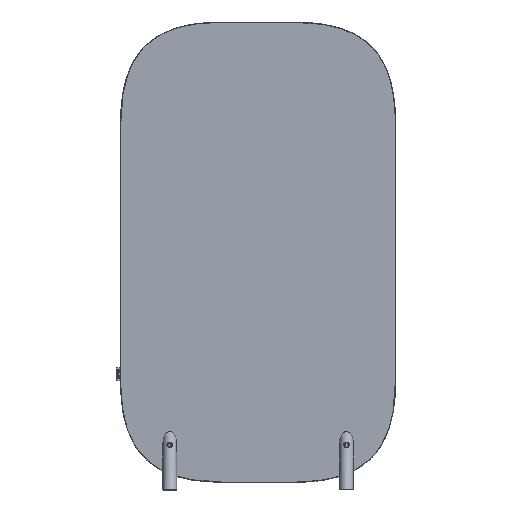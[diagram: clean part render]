
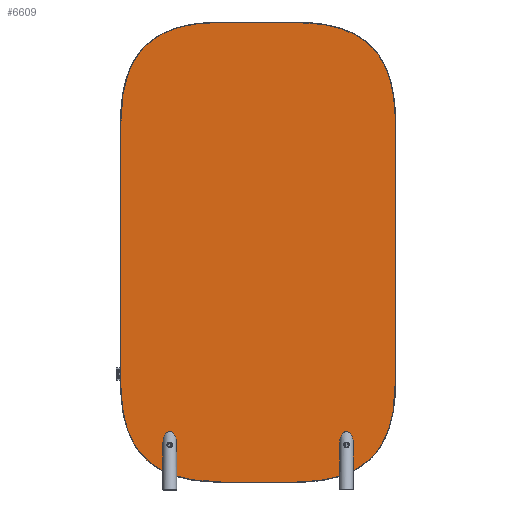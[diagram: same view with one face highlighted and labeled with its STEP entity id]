
A CAD part, left-side view. The second image highlights one B-rep face of the part: STEP entity #6609.
In plain terms, the highlighted planar face has unit normal (-1, 0, 0).
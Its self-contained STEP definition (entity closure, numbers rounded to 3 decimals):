
#477=FACE_BOUND('',#1176,.T.);
#478=FACE_BOUND('',#1177,.T.);
#479=FACE_BOUND('',#1178,.T.);
#480=FACE_BOUND('',#1179,.T.);
#481=FACE_BOUND('',#1180,.T.);
#482=FACE_BOUND('',#1181,.T.);
#521=CIRCLE('',#7072,4.);
#522=CIRCLE('',#7073,4.);
#523=CIRCLE('',#7074,4.);
#524=CIRCLE('',#7075,4.);
#525=CIRCLE('',#7076,4.);
#526=CIRCLE('',#7077,4.);
#568=B_SPLINE_CURVE_WITH_KNOTS('',3,(#8970,#8971,#8972,#8973,#8974,#8975,
#8976,#8977,#8978,#8979,#8980,#8981,#8982,#8983),.UNSPECIFIED.,.F.,.F.,
(4,2,2,2,2,2,4),(-73.677,-63.519,-50.322,
-37.778,-25.802,-10.935,0.),.UNSPECIFIED.);
#569=B_SPLINE_CURVE_WITH_KNOTS('',3,(#8985,#8986,#8987,#8988,#8989,#8990,
#8991,#8992,#8993,#8994,#8995,#8996,#8997,#8998),.UNSPECIFIED.,.F.,.F.,
(4,2,2,2,2,2,4),(-73.677,-63.519,-50.322,
-37.778,-25.802,-10.935,0.),.UNSPECIFIED.);
#570=B_SPLINE_CURVE_WITH_KNOTS('',3,(#9001,#9002,#9003,#9004,#9005,#9006,
#9007,#9008,#9009,#9010,#9011,#9012,#9013,#9014),.UNSPECIFIED.,.F.,.F.,
(4,2,2,2,2,2,4),(-73.677,-63.519,-50.322,
-37.778,-25.802,-10.935,0.),.UNSPECIFIED.);
#571=B_SPLINE_CURVE_WITH_KNOTS('',3,(#9016,#9017,#9018,#9019,#9020,#9021,
#9022,#9023,#9024,#9025,#9026,#9027,#9028,#9029),.UNSPECIFIED.,.F.,.F.,
(4,2,2,2,2,2,4),(-73.677,-63.519,-50.322,
-37.778,-25.802,-10.935,0.),.UNSPECIFIED.);
#786=FACE_OUTER_BOUND('',#1175,.T.);
#1175=EDGE_LOOP('',(#4447,#4448,#4449,#4450,#4451,#4452,#4453,#4454));
#1176=EDGE_LOOP('',(#4455));
#1177=EDGE_LOOP('',(#4456));
#1178=EDGE_LOOP('',(#4457));
#1179=EDGE_LOOP('',(#4458));
#1180=EDGE_LOOP('',(#4459));
#1181=EDGE_LOOP('',(#4460));
#1605=LINE('',#8937,#2189);
#1615=LINE('',#8958,#2199);
#1620=LINE('',#9000,#2204);
#1621=LINE('',#9030,#2205);
#2189=VECTOR('',#7501,10.);
#2199=VECTOR('',#7515,10.);
#2204=VECTOR('',#7524,10.);
#2205=VECTOR('',#7525,10.);
#2772=VERTEX_POINT('',#8933);
#2774=VERTEX_POINT('',#8936);
#2781=VERTEX_POINT('',#8952);
#2783=VERTEX_POINT('',#8956);
#2788=VERTEX_POINT('',#8969);
#2789=VERTEX_POINT('',#8984);
#2790=VERTEX_POINT('',#8999);
#2791=VERTEX_POINT('',#9015);
#2792=VERTEX_POINT('',#9031);
#2793=VERTEX_POINT('',#9033);
#2794=VERTEX_POINT('',#9035);
#2795=VERTEX_POINT('',#9037);
#2796=VERTEX_POINT('',#9039);
#2797=VERTEX_POINT('',#9041);
#3436=EDGE_CURVE('',#2772,#2774,#1605,.T.);
#3446=EDGE_CURVE('',#2781,#2783,#1615,.T.);
#3451=EDGE_CURVE('',#2781,#2788,#568,.F.);
#3452=EDGE_CURVE('',#2789,#2783,#569,.F.);
#3453=EDGE_CURVE('',#2790,#2789,#1620,.T.);
#3454=EDGE_CURVE('',#2774,#2790,#570,.F.);
#3455=EDGE_CURVE('',#2791,#2772,#571,.F.);
#3456=EDGE_CURVE('',#2788,#2791,#1621,.T.);
#3457=EDGE_CURVE('',#2792,#2792,#521,.T.);
#3458=EDGE_CURVE('',#2793,#2793,#522,.T.);
#3459=EDGE_CURVE('',#2794,#2794,#523,.T.);
#3460=EDGE_CURVE('',#2795,#2795,#524,.T.);
#3461=EDGE_CURVE('',#2796,#2796,#525,.T.);
#3462=EDGE_CURVE('',#2797,#2797,#526,.T.);
#4447=ORIENTED_EDGE('',*,*,#3451,.F.);
#4448=ORIENTED_EDGE('',*,*,#3446,.T.);
#4449=ORIENTED_EDGE('',*,*,#3452,.F.);
#4450=ORIENTED_EDGE('',*,*,#3453,.F.);
#4451=ORIENTED_EDGE('',*,*,#3454,.F.);
#4452=ORIENTED_EDGE('',*,*,#3436,.F.);
#4453=ORIENTED_EDGE('',*,*,#3455,.F.);
#4454=ORIENTED_EDGE('',*,*,#3456,.F.);
#4455=ORIENTED_EDGE('',*,*,#3457,.F.);
#4456=ORIENTED_EDGE('',*,*,#3458,.F.);
#4457=ORIENTED_EDGE('',*,*,#3459,.F.);
#4458=ORIENTED_EDGE('',*,*,#3460,.F.);
#4459=ORIENTED_EDGE('',*,*,#3461,.F.);
#4460=ORIENTED_EDGE('',*,*,#3462,.F.);
#6427=PLANE('',#7071);
#6609=ADVANCED_FACE('',(#786,#477,#478,#479,#480,#481,#482),#6427,.F.);
#7071=AXIS2_PLACEMENT_3D('',#8968,#7522,#7523);
#7072=AXIS2_PLACEMENT_3D('',#9032,#7526,#7527);
#7073=AXIS2_PLACEMENT_3D('',#9034,#7528,#7529);
#7074=AXIS2_PLACEMENT_3D('',#9036,#7530,#7531);
#7075=AXIS2_PLACEMENT_3D('',#9038,#7532,#7533);
#7076=AXIS2_PLACEMENT_3D('',#9040,#7534,#7535);
#7077=AXIS2_PLACEMENT_3D('',#9042,#7536,#7537);
#7501=DIRECTION('',(0.,1.,0.));
#7515=DIRECTION('',(0.,1.,0.));
#7522=DIRECTION('center_axis',(1.,0.,0.));
#7523=DIRECTION('ref_axis',(0.,1.,0.));
#7524=DIRECTION('',(0.,0.,1.));
#7525=DIRECTION('',(0.,0.,-1.));
#7526=DIRECTION('center_axis',(-1.,0.,0.));
#7527=DIRECTION('ref_axis',(0.,1.,0.));
#7528=DIRECTION('center_axis',(-1.,0.,0.));
#7529=DIRECTION('ref_axis',(0.,1.,0.));
#7530=DIRECTION('center_axis',(-1.,0.,0.));
#7531=DIRECTION('ref_axis',(0.,1.,0.));
#7532=DIRECTION('center_axis',(-1.,0.,0.));
#7533=DIRECTION('ref_axis',(0.,1.,0.));
#7534=DIRECTION('center_axis',(-1.,0.,0.));
#7535=DIRECTION('ref_axis',(0.,1.,0.));
#7536=DIRECTION('center_axis',(-1.,0.,0.));
#7537=DIRECTION('ref_axis',(0.,1.,0.));
#8933=CARTESIAN_POINT('',(-14.,-129.,-836.125));
#8936=CARTESIAN_POINT('',(-14.,129.,-836.125));
#8937=CARTESIAN_POINT('',(-14.,-129.,-836.125));
#8952=CARTESIAN_POINT('',(-14.,-129.,836.125));
#8956=CARTESIAN_POINT('',(-14.,129.,836.125));
#8958=CARTESIAN_POINT('',(-14.,-129.,836.125));
#8968=CARTESIAN_POINT('Origin',(-14.,0.,0.));
#8969=CARTESIAN_POINT('',(-14.,-500.,465.125));
#8970=CARTESIAN_POINT('Ctrl Pts',(-14.,-500.,465.125));
#8971=CARTESIAN_POINT('Ctrl Pts',(-14.,-500.,502.797));
#8972=CARTESIAN_POINT('Ctrl Pts',(-14.,-497.649,536.83));
#8973=CARTESIAN_POINT('Ctrl Pts',(-14.,-487.038,607.279));
#8974=CARTESIAN_POINT('Ctrl Pts',(-14.,-477.255,641.402));
#8975=CARTESIAN_POINT('Ctrl Pts',(-14.,-451.183,698.899));
#8976=CARTESIAN_POINT('Ctrl Pts',(-14.,-435.254,722.751));
#8977=CARTESIAN_POINT('Ctrl Pts',(-14.,-397.46,762.579));
#8978=CARTESIAN_POINT('Ctrl Pts',(-14.,-375.893,778.864));
#8979=CARTESIAN_POINT('Ctrl Pts',(-14.,-319.371,808.773));
#8980=CARTESIAN_POINT('Ctrl Pts',(-14.,-282.41,820.804));
#8981=CARTESIAN_POINT('Ctrl Pts',(-14.,-205.879,833.399));
#8982=CARTESIAN_POINT('Ctrl Pts',(-14.,-169.55,836.125));
#8983=CARTESIAN_POINT('Ctrl Pts',(-14.,-129.,836.125));
#8984=CARTESIAN_POINT('',(-14.,500.,465.125));
#8985=CARTESIAN_POINT('Ctrl Pts',(-14.,129.,836.125));
#8986=CARTESIAN_POINT('Ctrl Pts',(-14.,166.672,836.125));
#8987=CARTESIAN_POINT('Ctrl Pts',(-14.,200.705,833.774));
#8988=CARTESIAN_POINT('Ctrl Pts',(-14.,271.154,823.163));
#8989=CARTESIAN_POINT('Ctrl Pts',(-14.,305.277,813.38));
#8990=CARTESIAN_POINT('Ctrl Pts',(-14.,362.774,787.308));
#8991=CARTESIAN_POINT('Ctrl Pts',(-14.,386.626,771.379));
#8992=CARTESIAN_POINT('Ctrl Pts',(-14.,426.454,733.585));
#8993=CARTESIAN_POINT('Ctrl Pts',(-14.,442.739,712.018));
#8994=CARTESIAN_POINT('Ctrl Pts',(-14.,472.648,655.496));
#8995=CARTESIAN_POINT('Ctrl Pts',(-14.,484.679,618.535));
#8996=CARTESIAN_POINT('Ctrl Pts',(-14.,497.274,542.004));
#8997=CARTESIAN_POINT('Ctrl Pts',(-14.,500.,505.675));
#8998=CARTESIAN_POINT('Ctrl Pts',(-14.,500.,465.125));
#8999=CARTESIAN_POINT('',(-14.,500.,-465.125));
#9000=CARTESIAN_POINT('',(-14.,500.,-232.563));
#9001=CARTESIAN_POINT('Ctrl Pts',(-14.,500.,-465.125));
#9002=CARTESIAN_POINT('Ctrl Pts',(-14.,500.,-502.797));
#9003=CARTESIAN_POINT('Ctrl Pts',(-14.,497.649,-536.83));
#9004=CARTESIAN_POINT('Ctrl Pts',(-14.,487.038,-607.279));
#9005=CARTESIAN_POINT('Ctrl Pts',(-14.,477.255,-641.402));
#9006=CARTESIAN_POINT('Ctrl Pts',(-14.,451.183,-698.899));
#9007=CARTESIAN_POINT('Ctrl Pts',(-14.,435.254,-722.751));
#9008=CARTESIAN_POINT('Ctrl Pts',(-14.,397.46,-762.579));
#9009=CARTESIAN_POINT('Ctrl Pts',(-14.,375.893,-778.864));
#9010=CARTESIAN_POINT('Ctrl Pts',(-14.,319.371,-808.773));
#9011=CARTESIAN_POINT('Ctrl Pts',(-14.,282.41,-820.804));
#9012=CARTESIAN_POINT('Ctrl Pts',(-14.,205.879,-833.399));
#9013=CARTESIAN_POINT('Ctrl Pts',(-14.,169.55,-836.125));
#9014=CARTESIAN_POINT('Ctrl Pts',(-14.,129.,-836.125));
#9015=CARTESIAN_POINT('',(-14.,-500.,-465.125));
#9016=CARTESIAN_POINT('Ctrl Pts',(-14.,-129.,-836.125));
#9017=CARTESIAN_POINT('Ctrl Pts',(-14.,-166.672,-836.125));
#9018=CARTESIAN_POINT('Ctrl Pts',(-14.,-200.705,-833.774));
#9019=CARTESIAN_POINT('Ctrl Pts',(-14.,-271.154,-823.163));
#9020=CARTESIAN_POINT('Ctrl Pts',(-14.,-305.277,-813.38));
#9021=CARTESIAN_POINT('Ctrl Pts',(-14.,-362.774,-787.308));
#9022=CARTESIAN_POINT('Ctrl Pts',(-14.,-386.626,-771.379));
#9023=CARTESIAN_POINT('Ctrl Pts',(-14.,-426.454,-733.585));
#9024=CARTESIAN_POINT('Ctrl Pts',(-14.,-442.739,-712.018));
#9025=CARTESIAN_POINT('Ctrl Pts',(-14.,-472.648,-655.496));
#9026=CARTESIAN_POINT('Ctrl Pts',(-14.,-484.679,-618.535));
#9027=CARTESIAN_POINT('Ctrl Pts',(-14.,-497.274,-542.004));
#9028=CARTESIAN_POINT('Ctrl Pts',(-14.,-500.,-505.675));
#9029=CARTESIAN_POINT('Ctrl Pts',(-14.,-500.,-465.125));
#9030=CARTESIAN_POINT('',(-14.,-500.,232.563));
#9031=CARTESIAN_POINT('',(-14.,325.,-724.125));
#9032=CARTESIAN_POINT('Origin',(-14.,329.,-724.125));
#9033=CARTESIAN_POINT('',(-14.,317.,-700.125));
#9034=CARTESIAN_POINT('Origin',(-14.,321.,-700.125));
#9035=CARTESIAN_POINT('',(-14.,309.,-724.125));
#9036=CARTESIAN_POINT('Origin',(-14.,313.,-724.125));
#9037=CARTESIAN_POINT('',(-14.,-333.,-724.125));
#9038=CARTESIAN_POINT('Origin',(-14.,-329.,-724.125));
#9039=CARTESIAN_POINT('',(-14.,-325.,-700.125));
#9040=CARTESIAN_POINT('Origin',(-14.,-321.,-700.125));
#9041=CARTESIAN_POINT('',(-14.,-317.,-724.125));
#9042=CARTESIAN_POINT('Origin',(-14.,-313.,-724.125));
